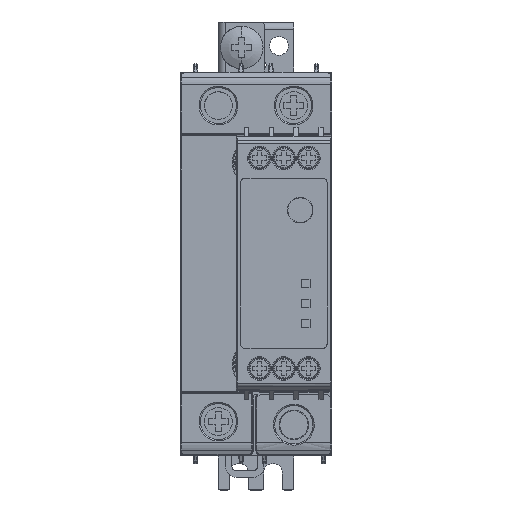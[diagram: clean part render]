
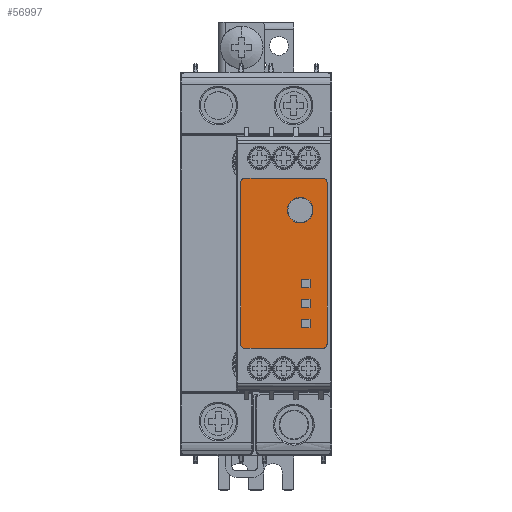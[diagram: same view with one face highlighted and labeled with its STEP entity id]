
A CAD part, top view. The second image highlights one B-rep face of the part: STEP entity #56997.
In plain terms, the highlighted planar face has unit normal (0, 0, 1).
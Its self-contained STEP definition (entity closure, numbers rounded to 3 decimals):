
#130=CARTESIAN_POINT('',(7.4,12.5,162.88));
#131=VERTEX_POINT('',#130);
#141=CARTESIAN_POINT('',(13.4,12.5,162.88));
#142=VERTEX_POINT('',#141);
#143=CARTESIAN_POINT('',(10.4,12.5,162.88));
#144=DIRECTION('',(0.0,0.0,1.0));
#145=DIRECTION('',(1.0,0.0,0.0));
#146=AXIS2_PLACEMENT_3D('',#143,#144,#145);
#147=CIRCLE('',#146,3.0);
#148=EDGE_CURVE('',#131,#142,#147,.T.);
#56810=CARTESIAN_POINT('',(2.55,0.,162.88));
#56811=DIRECTION('',(0.0,0.0,1.0));
#56812=DIRECTION('',(1.0,0.0,0.0));
#56813=AXIS2_PLACEMENT_3D('',#56810,#56811,#56812);
#56814=PLANE('',#56813);
#56815=CARTESIAN_POINT('',(-3.6,19.,162.88));
#56816=VERTEX_POINT('',#56815);
#56817=CARTESIAN_POINT('',(-3.6,-19.,162.88));
#56818=VERTEX_POINT('',#56817);
#56819=CARTESIAN_POINT('',(-3.6,19.,162.88));
#56820=DIRECTION('',(0.0,-1.0,0.0));
#56821=VECTOR('',#56820,38.);
#56822=LINE('',#56819,#56821);
#56823=EDGE_CURVE('',#56816,#56818,#56822,.T.);
#56824=ORIENTED_EDGE('',*,*,#56823,.T.);
#56825=CARTESIAN_POINT('',(-2.6,-20.,162.88));
#56826=VERTEX_POINT('',#56825);
#56827=CARTESIAN_POINT('',(-2.6,-19.,162.88));
#56828=DIRECTION('',(0.,0.,1.0));
#56829=DIRECTION('',(-0.707,-0.707,0.));
#56830=AXIS2_PLACEMENT_3D('',#56827,#56828,#56829);
#56831=CIRCLE('',#56830,1.0);
#56832=EDGE_CURVE('',#56818,#56826,#56831,.T.);
#56833=ORIENTED_EDGE('',*,*,#56832,.T.);
#56834=CARTESIAN_POINT('',(15.7,-20.,162.88));
#56835=VERTEX_POINT('',#56834);
#56836=CARTESIAN_POINT('',(-2.6,-20.,162.88));
#56837=DIRECTION('',(1.0,0.0,0.0));
#56838=VECTOR('',#56837,18.3);
#56839=LINE('',#56836,#56838);
#56840=EDGE_CURVE('',#56826,#56835,#56839,.T.);
#56841=ORIENTED_EDGE('',*,*,#56840,.T.);
#56842=CARTESIAN_POINT('',(16.7,-19.,162.88));
#56843=VERTEX_POINT('',#56842);
#56844=CARTESIAN_POINT('',(15.7,-19.,162.88));
#56845=DIRECTION('',(0.,0.,1.0));
#56846=DIRECTION('',(0.707,-0.707,0.));
#56847=AXIS2_PLACEMENT_3D('',#56844,#56845,#56846);
#56848=CIRCLE('',#56847,1.);
#56849=EDGE_CURVE('',#56835,#56843,#56848,.T.);
#56850=ORIENTED_EDGE('',*,*,#56849,.T.);
#56851=CARTESIAN_POINT('',(16.7,19.,162.88));
#56852=VERTEX_POINT('',#56851);
#56853=CARTESIAN_POINT('',(16.7,-19.,162.88));
#56854=DIRECTION('',(0.0,1.0,0.0));
#56855=VECTOR('',#56854,38.);
#56856=LINE('',#56853,#56855);
#56857=EDGE_CURVE('',#56843,#56852,#56856,.T.);
#56858=ORIENTED_EDGE('',*,*,#56857,.T.);
#56859=CARTESIAN_POINT('',(15.7,20.,162.88));
#56860=VERTEX_POINT('',#56859);
#56861=CARTESIAN_POINT('',(15.7,19.,162.88));
#56862=DIRECTION('',(0.,0.,1.0));
#56863=DIRECTION('',(0.707,0.707,0.));
#56864=AXIS2_PLACEMENT_3D('',#56861,#56862,#56863);
#56865=CIRCLE('',#56864,1.);
#56866=EDGE_CURVE('',#56852,#56860,#56865,.T.);
#56867=ORIENTED_EDGE('',*,*,#56866,.T.);
#56868=CARTESIAN_POINT('',(-2.6,20.,162.88));
#56869=VERTEX_POINT('',#56868);
#56870=CARTESIAN_POINT('',(15.7,20.,162.88));
#56871=DIRECTION('',(-1.0,0.0,0.0));
#56872=VECTOR('',#56871,18.3);
#56873=LINE('',#56870,#56872);
#56874=EDGE_CURVE('',#56860,#56869,#56873,.T.);
#56875=ORIENTED_EDGE('',*,*,#56874,.T.);
#56876=CARTESIAN_POINT('',(-2.6,19.,162.88));
#56877=DIRECTION('',(0.,0.,1.));
#56878=DIRECTION('',(-0.707,0.707,0.));
#56879=AXIS2_PLACEMENT_3D('',#56876,#56877,#56878);
#56880=CIRCLE('',#56879,1.);
#56881=EDGE_CURVE('',#56869,#56816,#56880,.T.);
#56882=ORIENTED_EDGE('',*,*,#56881,.T.);
#56883=EDGE_LOOP('',(#56824,#56833,#56841,#56850,#56858,#56867,#56875,#56882));
#56884=FACE_OUTER_BOUND('',#56883,.T.);
#56885=CARTESIAN_POINT('',(12.7,-3.7,162.88));
#56886=VERTEX_POINT('',#56885);
#56887=CARTESIAN_POINT('',(12.7,-5.7,162.88));
#56888=VERTEX_POINT('',#56887);
#56889=CARTESIAN_POINT('',(12.7,-3.7,162.88));
#56890=DIRECTION('',(0.0,-1.0,0.0));
#56891=VECTOR('',#56890,2.0);
#56892=LINE('',#56889,#56891);
#56893=EDGE_CURVE('',#56886,#56888,#56892,.T.);
#56894=ORIENTED_EDGE('',*,*,#56893,.T.);
#56895=CARTESIAN_POINT('',(10.7,-5.7,162.88));
#56896=VERTEX_POINT('',#56895);
#56897=CARTESIAN_POINT('',(12.7,-5.7,162.88));
#56898=DIRECTION('',(-1.0,0.0,0.0));
#56899=VECTOR('',#56898,2.0);
#56900=LINE('',#56897,#56899);
#56901=EDGE_CURVE('',#56888,#56896,#56900,.T.);
#56902=ORIENTED_EDGE('',*,*,#56901,.T.);
#56903=CARTESIAN_POINT('',(10.7,-3.7,162.88));
#56904=VERTEX_POINT('',#56903);
#56905=CARTESIAN_POINT('',(10.7,-5.7,162.88));
#56906=DIRECTION('',(0.0,1.0,0.0));
#56907=VECTOR('',#56906,2.0);
#56908=LINE('',#56905,#56907);
#56909=EDGE_CURVE('',#56896,#56904,#56908,.T.);
#56910=ORIENTED_EDGE('',*,*,#56909,.T.);
#56911=CARTESIAN_POINT('',(10.7,-3.7,162.88));
#56912=DIRECTION('',(1.0,0.0,0.0));
#56913=VECTOR('',#56912,2.0);
#56914=LINE('',#56911,#56913);
#56915=EDGE_CURVE('',#56904,#56886,#56914,.T.);
#56916=ORIENTED_EDGE('',*,*,#56915,.T.);
#56917=EDGE_LOOP('',(#56894,#56902,#56910,#56916));
#56918=FACE_BOUND('',#56917,.T.);
#56919=CARTESIAN_POINT('',(12.7,-8.4,162.88));
#56920=VERTEX_POINT('',#56919);
#56921=CARTESIAN_POINT('',(12.7,-10.4,162.88));
#56922=VERTEX_POINT('',#56921);
#56923=CARTESIAN_POINT('',(12.7,-8.4,162.88));
#56924=DIRECTION('',(0.0,-1.0,0.0));
#56925=VECTOR('',#56924,2.0);
#56926=LINE('',#56923,#56925);
#56927=EDGE_CURVE('',#56920,#56922,#56926,.T.);
#56928=ORIENTED_EDGE('',*,*,#56927,.T.);
#56929=CARTESIAN_POINT('',(10.7,-10.4,162.88));
#56930=VERTEX_POINT('',#56929);
#56931=CARTESIAN_POINT('',(12.7,-10.4,162.88));
#56932=DIRECTION('',(-1.0,0.0,0.0));
#56933=VECTOR('',#56932,2.0);
#56934=LINE('',#56931,#56933);
#56935=EDGE_CURVE('',#56922,#56930,#56934,.T.);
#56936=ORIENTED_EDGE('',*,*,#56935,.T.);
#56937=CARTESIAN_POINT('',(10.7,-8.4,162.88));
#56938=VERTEX_POINT('',#56937);
#56939=CARTESIAN_POINT('',(10.7,-10.4,162.88));
#56940=DIRECTION('',(0.0,1.0,0.0));
#56941=VECTOR('',#56940,2.0);
#56942=LINE('',#56939,#56941);
#56943=EDGE_CURVE('',#56930,#56938,#56942,.T.);
#56944=ORIENTED_EDGE('',*,*,#56943,.T.);
#56945=CARTESIAN_POINT('',(10.7,-8.4,162.88));
#56946=DIRECTION('',(1.0,0.0,0.0));
#56947=VECTOR('',#56946,2.0);
#56948=LINE('',#56945,#56947);
#56949=EDGE_CURVE('',#56938,#56920,#56948,.T.);
#56950=ORIENTED_EDGE('',*,*,#56949,.T.);
#56951=EDGE_LOOP('',(#56928,#56936,#56944,#56950));
#56952=FACE_BOUND('',#56951,.T.);
#56953=CARTESIAN_POINT('',(12.7,-13.1,162.88));
#56954=VERTEX_POINT('',#56953);
#56955=CARTESIAN_POINT('',(12.7,-15.1,162.88));
#56956=VERTEX_POINT('',#56955);
#56957=CARTESIAN_POINT('',(12.7,-13.1,162.88));
#56958=DIRECTION('',(0.0,-1.0,0.0));
#56959=VECTOR('',#56958,2.0);
#56960=LINE('',#56957,#56959);
#56961=EDGE_CURVE('',#56954,#56956,#56960,.T.);
#56962=ORIENTED_EDGE('',*,*,#56961,.T.);
#56963=CARTESIAN_POINT('',(10.7,-15.1,162.88));
#56964=VERTEX_POINT('',#56963);
#56965=CARTESIAN_POINT('',(12.7,-15.1,162.88));
#56966=DIRECTION('',(-1.0,0.0,0.0));
#56967=VECTOR('',#56966,2.0);
#56968=LINE('',#56965,#56967);
#56969=EDGE_CURVE('',#56956,#56964,#56968,.T.);
#56970=ORIENTED_EDGE('',*,*,#56969,.T.);
#56971=CARTESIAN_POINT('',(10.7,-13.1,162.88));
#56972=VERTEX_POINT('',#56971);
#56973=CARTESIAN_POINT('',(10.7,-15.1,162.88));
#56974=DIRECTION('',(0.0,1.0,0.0));
#56975=VECTOR('',#56974,2.0);
#56976=LINE('',#56973,#56975);
#56977=EDGE_CURVE('',#56964,#56972,#56976,.T.);
#56978=ORIENTED_EDGE('',*,*,#56977,.T.);
#56979=CARTESIAN_POINT('',(10.7,-13.1,162.88));
#56980=DIRECTION('',(1.0,0.0,0.0));
#56981=VECTOR('',#56980,2.0);
#56982=LINE('',#56979,#56981);
#56983=EDGE_CURVE('',#56972,#56954,#56982,.T.);
#56984=ORIENTED_EDGE('',*,*,#56983,.T.);
#56985=EDGE_LOOP('',(#56962,#56970,#56978,#56984));
#56986=FACE_BOUND('',#56985,.T.);
#56987=CARTESIAN_POINT('',(10.4,12.5,162.88));
#56988=DIRECTION('',(0.0,0.0,1.0));
#56989=DIRECTION('',(1.0,0.0,0.0));
#56990=AXIS2_PLACEMENT_3D('',#56987,#56988,#56989);
#56991=CIRCLE('',#56990,3.0);
#56992=EDGE_CURVE('',#142,#131,#56991,.T.);
#56993=ORIENTED_EDGE('',*,*,#56992,.F.);
#56994=ORIENTED_EDGE('',*,*,#148,.F.);
#56995=EDGE_LOOP('',(#56993,#56994));
#56996=FACE_BOUND('',#56995,.T.);
#56997=ADVANCED_FACE('',(#56884,#56918,#56952,#56986,#56996),#56814,.T.);
